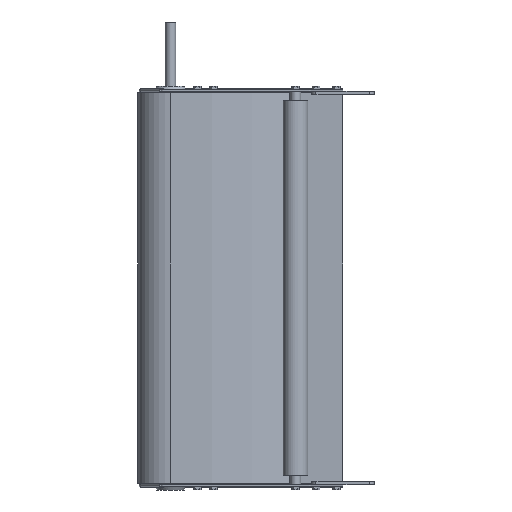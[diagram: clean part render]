
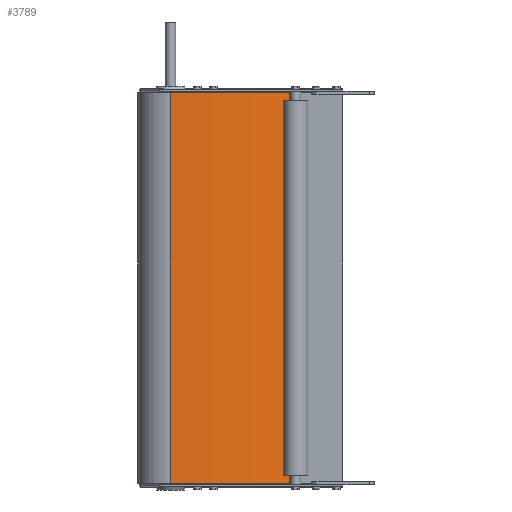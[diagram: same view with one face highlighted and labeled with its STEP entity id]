
A CAD part, front view. The second image highlights one B-rep face of the part: STEP entity #3789.
In plain terms, the highlighted cylindrical face has radius 508.8 mm (diameter 1017.6 mm), a partial arc.
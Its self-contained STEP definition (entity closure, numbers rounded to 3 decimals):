
#353 = CARTESIAN_POINT ( 'NONE',  ( 64.602, 381.399, 381. ) ) ;
#379 = VERTEX_POINT ( 'NONE', #9522 ) ;
#494 = CIRCLE ( 'NONE', #5780, 508.8 ) ;
#637 = FACE_OUTER_BOUND ( 'NONE', #911, .T. ) ;
#911 = EDGE_LOOP ( 'NONE', ( #8195, #8423, #9123, #3261 ) ) ;
#1048 = AXIS2_PLACEMENT_3D ( 'NONE', #2916, #2864, #5850 ) ;
#2864 = DIRECTION ( 'NONE',  ( 0., 0., 1. ) ) ;
#2916 = CARTESIAN_POINT ( 'NONE',  ( 64.602, 381.399, -381. ) ) ;
#2968 = CARTESIAN_POINT ( 'NONE',  ( 64.602, 381.399, -381. ) ) ;
#2993 = CARTESIAN_POINT ( 'NONE',  ( 296.602, -71.429, -381. ) ) ;
#3261 = ORIENTED_EDGE ( 'NONE', *, *, #6158, .T. ) ;
#3789 = ADVANCED_FACE ( 'NONE', ( #637 ), #9525, .T. ) ;
#4035 = CARTESIAN_POINT ( 'NONE',  ( 63.571, -127.4, -381. ) ) ;
#4106 = AXIS2_PLACEMENT_3D ( 'NONE', #2968, #8080, #5955 ) ;
#4361 = CARTESIAN_POINT ( 'NONE',  ( 63.571, -127.4, 381. ) ) ;
#4394 = DIRECTION ( 'NONE',  ( 0., 0., 1. ) ) ;
#4595 = VERTEX_POINT ( 'NONE', #4361 ) ;
#4953 = EDGE_CURVE ( 'NONE', #8176, #4595, #6948, .T. ) ;
#5499 = CARTESIAN_POINT ( 'NONE',  ( 63.571, -127.4, -381. ) ) ;
#5723 = VECTOR ( 'NONE', #8581, 1000. ) ;
#5780 = AXIS2_PLACEMENT_3D ( 'NONE', #353, #7068, #9247 ) ;
#5850 = DIRECTION ( 'NONE',  ( 1., 0., 0. ) ) ;
#5955 = DIRECTION ( 'NONE',  ( -1., 0., 0. ) ) ;
#6158 = EDGE_CURVE ( 'NONE', #8346, #379, #8017, .T. ) ;
#6948 = LINE ( 'NONE', #5499, #5723 ) ;
#7068 = DIRECTION ( 'NONE',  ( 0., 0., 1. ) ) ;
#7208 = CIRCLE ( 'NONE', #4106, 508.8 ) ;
#7222 = EDGE_CURVE ( 'NONE', #4595, #379, #494, .T. ) ;
#7456 = VECTOR ( 'NONE', #4394, 1000. ) ;
#8017 = LINE ( 'NONE', #8839, #7456 ) ;
#8080 = DIRECTION ( 'NONE',  ( 0., 0., 1. ) ) ;
#8176 = VERTEX_POINT ( 'NONE', #4035 ) ;
#8195 = ORIENTED_EDGE ( 'NONE', *, *, #7222, .F. ) ;
#8346 = VERTEX_POINT ( 'NONE', #2993 ) ;
#8423 = ORIENTED_EDGE ( 'NONE', *, *, #4953, .F. ) ;
#8581 = DIRECTION ( 'NONE',  ( 0., 0., 1. ) ) ;
#8839 = CARTESIAN_POINT ( 'NONE',  ( 296.602, -71.429, -381. ) ) ;
#9123 = ORIENTED_EDGE ( 'NONE', *, *, #9358, .T. ) ;
#9247 = DIRECTION ( 'NONE',  ( -1., 0., 0. ) ) ;
#9358 = EDGE_CURVE ( 'NONE', #8176, #8346, #7208, .T. ) ;
#9522 = CARTESIAN_POINT ( 'NONE',  ( 296.602, -71.429, 381. ) ) ;
#9525 = CYLINDRICAL_SURFACE ( 'NONE', #1048, 508.8 ) ;
